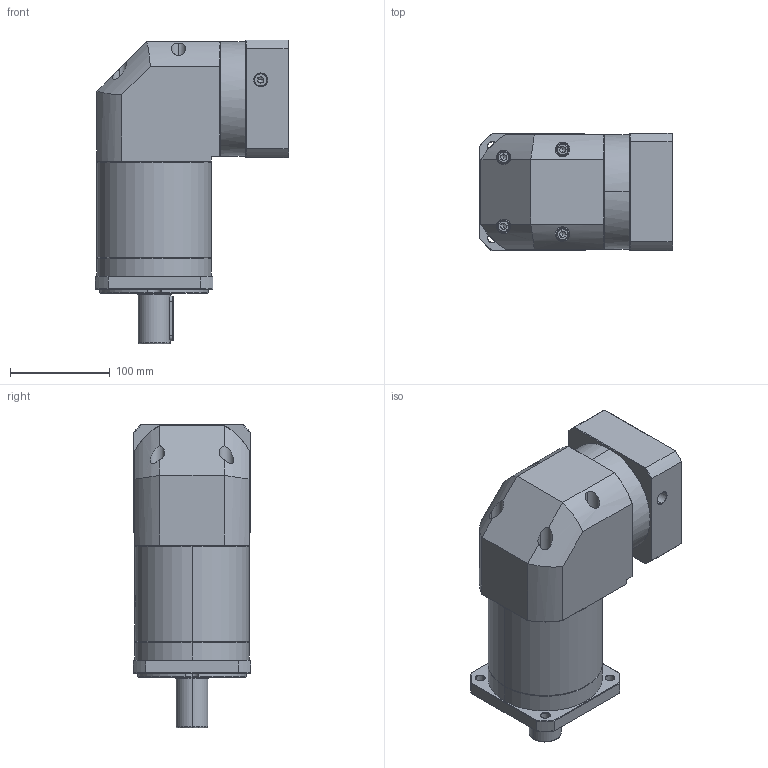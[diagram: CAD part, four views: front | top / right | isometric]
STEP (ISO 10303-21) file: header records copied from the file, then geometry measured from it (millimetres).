
FILE_DESCRIPTION (( 'STEP AP214' ), '1' );
FILE_NAME ('ZFR120A-D32-L3-P2-24-95-130-M8.step', '2023-08-27T08:12:13', ( '' ), ( '' ), 'SwSTEP 2.0', 'SolidWorks 2016', '' );
FILE_SCHEMA (( 'AUTOMOTIVE_DESIGN' ));
Length unit declared in the file: millimetre
Products named in the file (1): ZFR120A-D32-L3-P2-24-95-130-M8
Bounding box: 193.9 x 118 x 305 mm (x, y, z)
Volume: 3502118.8 mm3; surface area: 265140 mm2
Topology: 6 solids, 6 shells, 2265 faces, 5985 edges, 3825 vertices
Faces by surface type: plane 1061, cylinder 434, bspline 424, cone 338, torus 8
Entity records: 124465 total; most frequent: CARTESIAN_POINT 48999, ORIENTED_EDGE 11910, DIRECTION 8640, EDGE_CURVE 5955, VERTEX_POINT 3825, VECTOR 3160, LINE 3160, AXIS2_PLACEMENT_3D 2740
